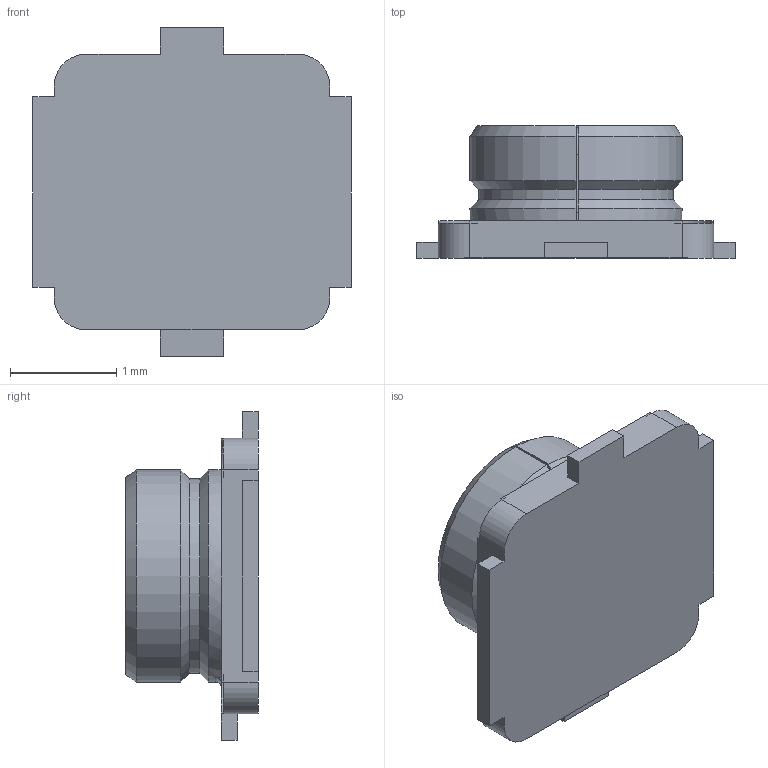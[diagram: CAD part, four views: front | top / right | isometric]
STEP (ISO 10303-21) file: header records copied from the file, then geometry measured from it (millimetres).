
FILE_DESCRIPTION (( 'STEP AP203' ), '1' );
FILE_NAME ('20279-001E-01C RECEPTACLE STEP R9 ALL.STEP', '2023-11-06T05:35:47', ( '' ), ( '' ), 'SwSTEP 2.0', 'SolidWorks 2023', '' );
FILE_SCHEMA (( 'CONFIG_CONTROL_DESIGN' ));
Length unit declared in the file: millimetre
Products named in the file (1): 20279-001E-01C RECEPTACLE STEP R9 ALL
Bounding box: 3 x 1.25 x 3.1 mm (x, y, z)
Volume: 3.4 mm3; surface area: 31.1 mm2
Topology: 1 solids, 1 shells, 69 faces, 186 edges, 119 vertices
Faces by surface type: plane 37, cylinder 23, cone 5, torus 2, sphere 2
Entity records: 2240 total; most frequent: CARTESIAN_POINT 411, DIRECTION 376, ORIENTED_EDGE 364, EDGE_CURVE 182, AXIS2_PLACEMENT_3D 129, VECTOR 118, LINE 118, VERTEX_POINT 117
